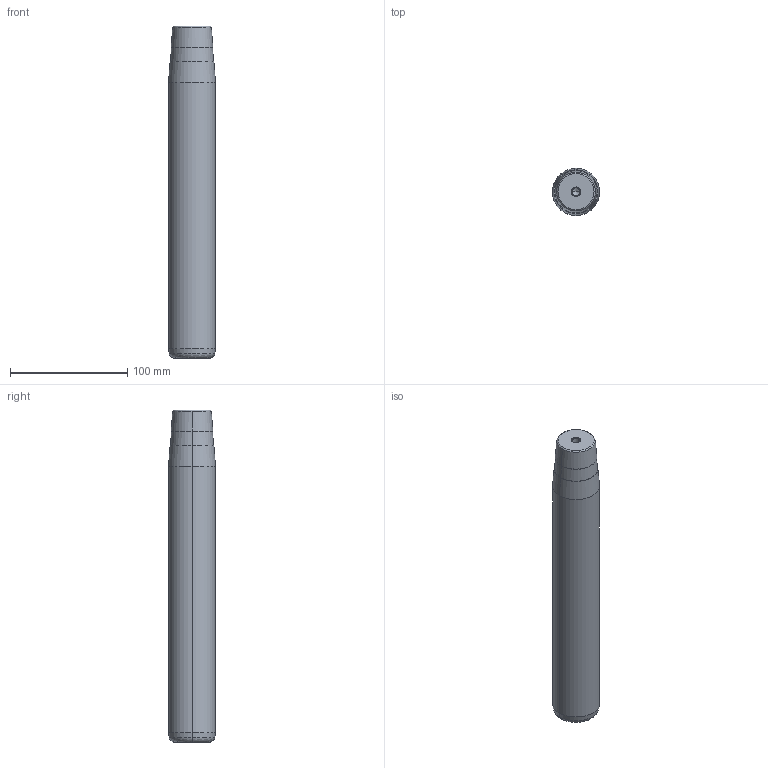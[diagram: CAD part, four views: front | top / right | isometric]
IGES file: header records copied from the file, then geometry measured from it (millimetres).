
Start section: START RECORD GO HERE.
Global section: file name: 722-40x250x283.igs; native system: DASSAULT SYSTEMES CATIA V5 R20 - www.3ds.com; preprocessor: CATIA Version 5 Release 20 ; author: Utente; organization: NB04-ASUS; date: 20210108.163318; units: millimetre
Bounding box: 40 x 40 x 283 mm (x, y, z)
Surface area: 37899.7 mm2 (no closed solid volume)
Topology: 0 solids, 0 shells, 32 faces, 128 edges, 124 vertices
Faces by surface type: revolution 30, plane 2
